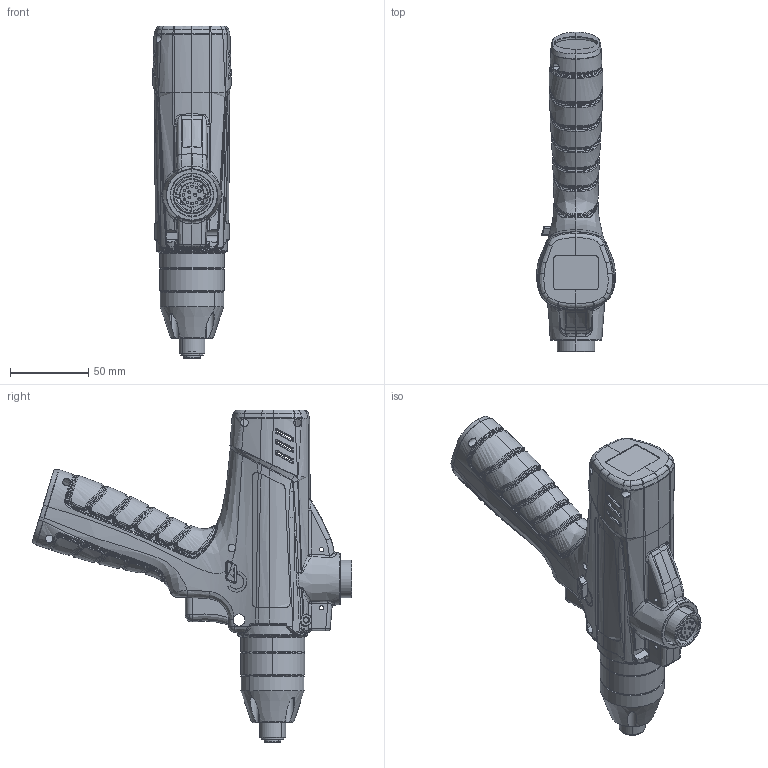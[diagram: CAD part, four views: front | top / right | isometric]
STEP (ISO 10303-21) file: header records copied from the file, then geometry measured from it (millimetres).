
FILE_DESCRIPTION (( 'STEP AP203' ), '1' );
FILE_NAME ('MDTP3204,3206-A U 諼睡辨.STEP', '2021-03-04T05:00:18', ( '' ), ( '' ), 'SwSTEP 2.0', 'SolidWorks 2020', '' );
FILE_SCHEMA (( 'CONFIG_CONTROL_DESIGN' ));
Length unit declared in the file: millimetre
Products named in the file (1): MDTP3204,3206-A U 諼睡辨
Bounding box: 50.54 x 204.81 x 212.6 mm (x, y, z)
Surface area: 70143.9 mm2 (no closed solid volume)
Topology: 0 solids, 38 shells, 1324 faces, 4046 edges, 2697 vertices
Faces by surface type: bspline 941, cylinder 164, plane 110, cone 60, torus 42, sphere 7
Entity records: 148611 total; most frequent: CARTESIAN_POINT 121150, ORIENTED_EDGE 6854, EDGE_CURVE 4037, DIRECTION 3048, VERTEX_POINT 2695, B_SPLINE_CURVE_WITH_KNOTS 2338, EDGE_LOOP 1414, ADVANCED_FACE 1324
